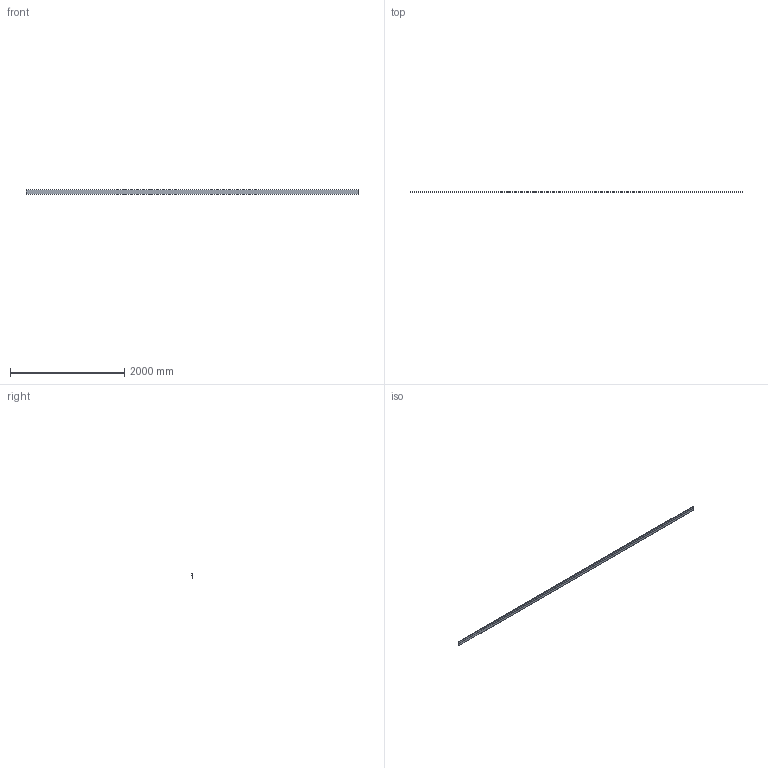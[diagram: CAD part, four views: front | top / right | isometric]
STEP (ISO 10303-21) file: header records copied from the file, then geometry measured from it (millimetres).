
FILE_DESCRIPTION(('STEP AP242'),'1');
FILE_NAME('OPO_65.082.14_volu_schn_3d.stp','2026-01-30T20:53:14',(' '),(' '),'Spatial InterOp 3D',' ',' ');
FILE_SCHEMA(('AP242_MANAGED_MODEL_BASED_3D_ENGINEERING_MIM_LF {1 0 10303 442 1 1 4}'));
Length unit declared in the file: millimetre
Products named in the file (1): 1
Bounding box: 5800 x 15.5 x 79 mm (x, y, z)
Volume: 649600 mm3; surface area: 1311024 mm2
Topology: 1 solids, 1 shells, 60 faces, 294 edges, 374 vertices
Faces by surface type: plane 40, cylinder 20
Entity records: 3999 total; most frequent: DIRECTION 478, CARTESIAN_POINT 462, ORIENTED_EDGE 320, LINE 234, VECTOR 234, STYLED_ITEM 194, PRESENTATION_STYLE_ASSIGNMENT 194, COLOUR_RGB 194
